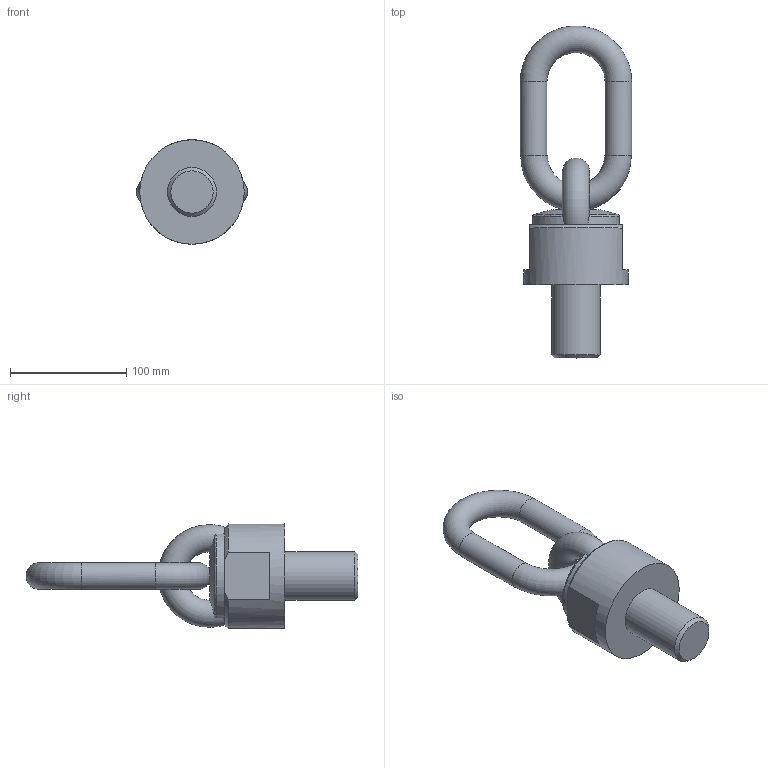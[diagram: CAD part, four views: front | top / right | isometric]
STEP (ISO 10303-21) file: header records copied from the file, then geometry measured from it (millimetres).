
FILE_DESCRIPTION( ( 'STEP AP203' ), '1' );
FILE_NAME( 'p:/temp/worker_22/temp/app_53_0201906261456155410707210e898ce_000000_00_00_000000/format_2/C800X1254263.stp', '2019-06-26T12:56:18', ( '' ), ( '' ), ' ', 'PARTsolutions', ' ' );
FILE_SCHEMA( ( 'CONFIG_CONTROL_DESIGN' ) );
Length unit declared in the file: millimetre
Products named in the file (1): _C800X1254263
Bounding box: 96 x 285.94 x 90 mm (x, y, z)
Volume: 649894.1 mm3; surface area: 69565.8 mm2
Topology: 1 solids, 1 shells, 28 faces, 70 edges, 44 vertices
Faces by surface type: plane 12, cylinder 6, torus 5, cone 5
Full cylindrical faces by diameter (mm): 23 x2, 42 x1, 90 x1
Entity records: 1190 total; most frequent: CARTESIAN_POINT 540, DIRECTION 122, ORIENTED_EDGE 116, EDGE_CURVE 58, AXIS2_PLACEMENT_3D 57, EDGE_LOOP 42, VERTEX_POINT 41, FACE_OUTER_BOUND 35
